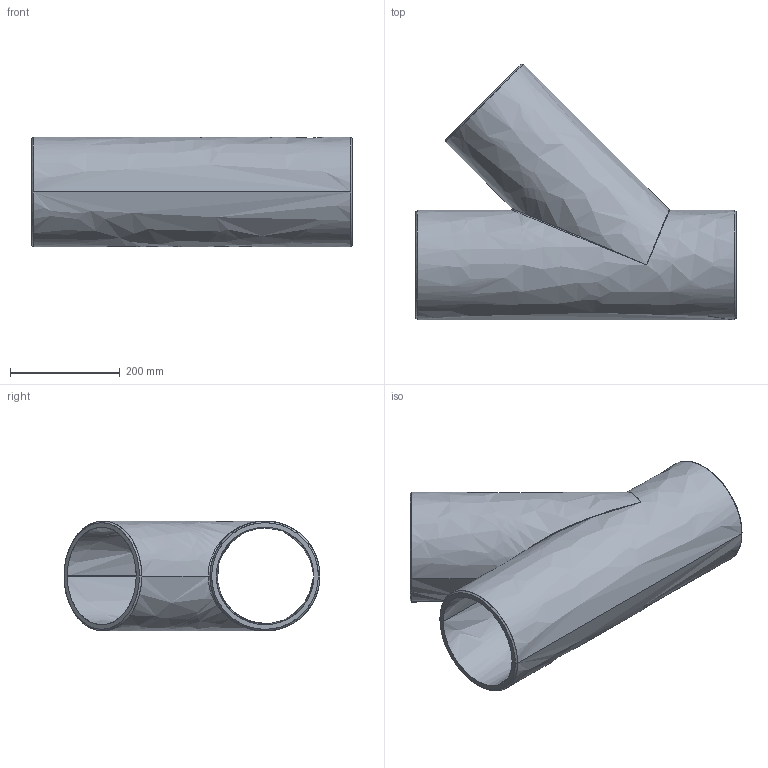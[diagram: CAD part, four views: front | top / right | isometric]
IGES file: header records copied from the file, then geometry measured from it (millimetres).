
Start section:  PTC IGES file: ats45_d200.igs
Global section: file name: ats45_d200.igs; native system: Pro/ENGINEER by Parametric Technology Corporation; preprocessor: 2011490; author: mtunjic; organization: Unknown; date: 20130724.093541; units: millimetre
Bounding box: 583 x 465.57 x 200 mm (x, y, z)
Surface area: 1073466.2 mm2 (no closed solid volume)
Topology: 0 solids, 0 shells, 22 faces, 106 edges, 106 vertices
Faces by surface type: bspline 22
